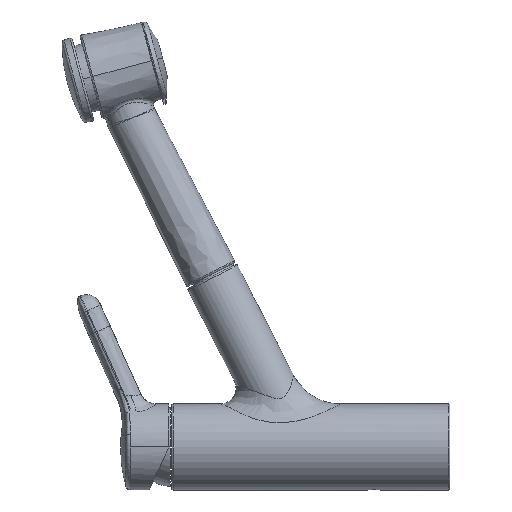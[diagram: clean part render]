
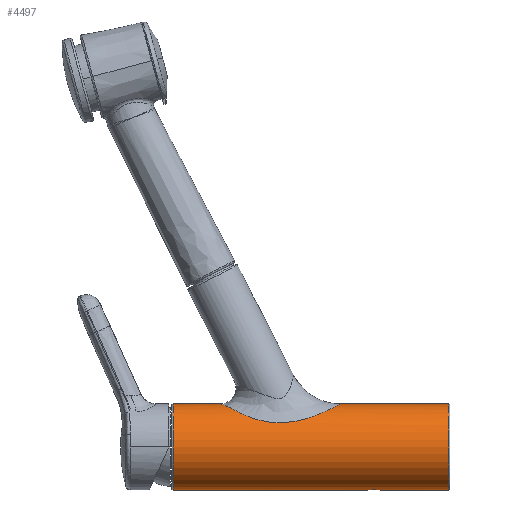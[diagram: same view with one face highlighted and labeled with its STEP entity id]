
A CAD part, left-side view. The second image highlights one B-rep face of the part: STEP entity #4497.
In plain terms, the highlighted cylindrical face has radius 24.5 mm (diameter 49 mm), a partial arc.
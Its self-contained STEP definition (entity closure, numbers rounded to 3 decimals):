
#1326=CARTESIAN_POINT('',(0.,131.351,
24.5));
#1365=CARTESIAN_POINT('',(0.,62.923,
24.5));
#1406=CARTESIAN_POINT('',(0.,1.3,0.));
#1407=DIRECTION('',(0.,1.,0.));
#1408=DIRECTION('',(0.,0.,-1.));
#1409=AXIS2_PLACEMENT_3D('',#1406,#1407,#1408);
#1411=DIRECTION('',(0.,-1.,0.));
#1412=VECTOR('',#1411,38.8);
#1413=CARTESIAN_POINT('',(0.,40.1,-24.5));
#1414=LINE('',#1413,#1412);
#1415=CARTESIAN_POINT('',(0.,47.6,-24.5));
#1416=CARTESIAN_POINT('',(-0.197,47.6,-24.5));
#1417=CARTESIAN_POINT('',(-0.586,47.569,
-24.495));
#1418=CARTESIAN_POINT('',(-1.159,47.433,
-24.475));
#1419=CARTESIAN_POINT('',(-1.706,47.207,
-24.442));
#1420=CARTESIAN_POINT('',(-2.211,46.898,
-24.402));
#1421=CARTESIAN_POINT('',(-2.663,46.513,
-24.356));
#1422=CARTESIAN_POINT('',(-3.048,46.061,
-24.31));
#1423=CARTESIAN_POINT('',(-3.357,45.556,
-24.269));
#1424=CARTESIAN_POINT('',(-3.583,45.009,
-24.237));
#1425=CARTESIAN_POINT('',(-3.719,44.437,
-24.216));
#1426=CARTESIAN_POINT('',(-3.765,43.85,
-24.209));
#1427=CARTESIAN_POINT('',(-3.719,43.263,
-24.216));
#1428=CARTESIAN_POINT('',(-3.583,42.691,
-24.237));
#1429=CARTESIAN_POINT('',(-3.357,42.144,
-24.269));
#1430=CARTESIAN_POINT('',(-3.048,41.639,
-24.31));
#1431=CARTESIAN_POINT('',(-2.663,41.187,
-24.356));
#1432=CARTESIAN_POINT('',(-2.211,40.802,
-24.402));
#1433=CARTESIAN_POINT('',(-1.706,40.493,
-24.442));
#1434=CARTESIAN_POINT('',(-1.159,40.267,
-24.475));
#1435=CARTESIAN_POINT('',(-0.586,40.131,
-24.495));
#1436=CARTESIAN_POINT('',(-0.197,40.1,-24.5));
#1437=CARTESIAN_POINT('',(0.,40.1,-24.5));
#1439=DIRECTION('',(0.,-1.,0.));
#1440=VECTOR('',#1439,110.6);
#1441=CARTESIAN_POINT('',(0.,158.2,-24.5));
#1442=LINE('',#1441,#1440);
#1443=CARTESIAN_POINT('',(0.,158.2,0.));
#1444=DIRECTION('',(0.,-1.,0.));
#1445=DIRECTION('',(0.,0.,1.));
#1446=AXIS2_PLACEMENT_3D('',#1443,#1444,#1445);
#1448=DIRECTION('',(0.,1.,0.));
#1449=VECTOR('',#1448,26.849);
#1450=CARTESIAN_POINT('',(0.,131.351,
24.5));
#1451=LINE('',#1450,#1449);
#1452=CARTESIAN_POINT('',(0.,62.923,
24.5));
#1453=CARTESIAN_POINT('',(-0.466,62.923,24.5));
#1454=CARTESIAN_POINT('',(-1.402,62.972,24.473));
#1455=CARTESIAN_POINT('',(-2.813,63.194,24.352));
#1456=CARTESIAN_POINT('',(-4.243,63.576,24.145));
#1457=CARTESIAN_POINT('',(-5.696,64.132,23.845));
#1458=CARTESIAN_POINT('',(-7.178,64.885,23.442));
#1459=CARTESIAN_POINT('',(-8.686,65.863,22.928));
#1460=CARTESIAN_POINT('',(-10.215,67.1,22.29));
#1461=CARTESIAN_POINT('',(-11.748,68.633,21.523));
#1462=CARTESIAN_POINT('',(-13.262,70.499,20.625));
#1463=CARTESIAN_POINT('',(-14.722,72.73,19.611));
#1464=CARTESIAN_POINT('',(-16.081,75.34,18.51));
#1465=CARTESIAN_POINT('',(-17.289,78.309,17.383));
#1466=CARTESIAN_POINT('',(-18.301,81.582,16.307));
#1467=CARTESIAN_POINT('',(-19.09,85.058,15.369));
#1468=CARTESIAN_POINT('',(-19.661,88.672,14.625));
#1469=CARTESIAN_POINT('',(-20.026,92.367,14.117));
#1470=CARTESIAN_POINT('',(-20.198,96.083,13.867));
#1471=CARTESIAN_POINT('',(-20.187,99.687,13.884));
#1472=CARTESIAN_POINT('',(-20.004,103.119,14.148));
#1473=CARTESIAN_POINT('',(-19.652,106.391,14.636));
#1474=CARTESIAN_POINT('',(-19.137,109.42,15.307));
#1475=CARTESIAN_POINT('',(-18.457,112.22,16.125));
#1476=CARTESIAN_POINT('',(-17.6,114.826,17.063));
#1477=CARTESIAN_POINT('',(-16.531,117.295,18.105));
#1478=CARTESIAN_POINT('',(-15.229,119.661,19.224));
#1479=CARTESIAN_POINT('',(-13.567,122.051,20.437));
#1480=CARTESIAN_POINT('',(-11.826,124.124,21.486));
#1481=CARTESIAN_POINT('',(-10.185,125.815,22.306));
#1482=CARTESIAN_POINT('',(-8.632,127.255,22.948));
#1483=CARTESIAN_POINT('',(-7.174,128.459,23.442));
#1484=CARTESIAN_POINT('',(-5.806,129.441,23.815));
#1485=CARTESIAN_POINT('',(-4.523,130.201,24.09));
#1486=CARTESIAN_POINT('',(-3.337,130.739,24.281));
#1487=CARTESIAN_POINT('',(-2.24,131.086,24.406));
#1488=CARTESIAN_POINT('',(-1.134,131.297,24.482));
#1489=CARTESIAN_POINT('',(-0.38,131.348,
24.5));
#1490=CARTESIAN_POINT('',(0.,131.351,
24.5));
#1492=DIRECTION('',(0.,1.,0.));
#1493=VECTOR('',#1492,61.623);
#1494=CARTESIAN_POINT('',(0.,1.3,24.5));
#1495=LINE('',#1494,#1493);
#1653=VERTEX_POINT('',#1326);
#1654=VERTEX_POINT('',#1365);
#1657=CARTESIAN_POINT('',(0.,1.3,24.5));
#1658=CARTESIAN_POINT('',(0.,1.3,-24.5));
#1659=VERTEX_POINT('',#1657);
#1660=VERTEX_POINT('',#1658);
#1673=CARTESIAN_POINT('',(0.,158.2,24.5));
#1674=CARTESIAN_POINT('',(0.,158.2,-24.5));
#1675=VERTEX_POINT('',#1673);
#1676=VERTEX_POINT('',#1674);
#1689=CARTESIAN_POINT('',(0.,47.6,-24.5));
#1690=VERTEX_POINT('',#1689);
#1691=CARTESIAN_POINT('',(0.,40.1,-24.5));
#1692=VERTEX_POINT('',#1691);
#4480=CARTESIAN_POINT('',(0.,-11.433,0.));
#4481=DIRECTION('',(0.,1.,0.));
#4482=DIRECTION('',(0.,0.,1.));
#4483=AXIS2_PLACEMENT_3D('',#4480,#4481,#4482);
#4484=CYLINDRICAL_SURFACE('',#4483,24.5);
#4485=ORIENTED_EDGE('',*,*,#4471,.F.);
#4486=ORIENTED_EDGE('',*,*,#4446,.F.);
#4488=ORIENTED_EDGE('',*,*,#4487,.F.);
#4489=ORIENTED_EDGE('',*,*,#4442,.F.);
#4491=ORIENTED_EDGE('',*,*,#4490,.F.);
#4492=ORIENTED_EDGE('',*,*,#4438,.F.);
#4493=ORIENTED_EDGE('',*,*,#4100,.F.);
#4494=ORIENTED_EDGE('',*,*,#4435,.F.);
#4495=EDGE_LOOP('',(#4485,#4486,#4488,#4489,#4491,#4492,#4493,#4494));
#4496=FACE_OUTER_BOUND('',#4495,.F.);
#4497=ADVANCED_FACE('',(#4496),#4484,.T.);
#1410=CIRCLE('',#1409,24.5);
#1438=B_SPLINE_CURVE_WITH_KNOTS('',3,(#1415,#1416,#1417,#1418,#1419,#1420,#1421,
#1422,#1423,#1424,#1425,#1426,#1427,#1428,#1429,#1430,#1431,#1432,#1433,#1434,
#1435,#1436,#1437),.UNSPECIFIED.,.F.,.F.,(4,1,1,1,1,1,1,1,1,1,1,1,1,1,1,1,1,1,1,
1,4),(0.,0.05,0.1,0.15,0.2,0.25,0.3,0.35,0.4,0.45,0.5,
0.55,0.6,0.65,0.7,0.75,0.8,0.85,0.9,0.95,1.),.UNSPECIFIED.);
#1447=CIRCLE('',#1446,24.5);
#1491=B_SPLINE_CURVE_WITH_KNOTS('',3,(#1452,#1453,#1454,#1455,#1456,#1457,#1458,
#1459,#1460,#1461,#1462,#1463,#1464,#1465,#1466,#1467,#1468,#1469,#1470,#1471,
#1472,#1473,#1474,#1475,#1476,#1477,#1478,#1479,#1480,#1481,#1482,#1483,#1484,
#1485,#1486,#1487,#1488,#1489,#1490),.UNSPECIFIED.,.F.,.F.,(4,1,1,1,1,1,1,1,1,1,
1,1,1,1,1,1,1,1,1,1,1,1,1,1,1,1,1,1,1,1,1,1,1,1,1,1,4),(0.,0.028,
0.056,0.083,0.111,0.139,
0.167,0.194,0.222,0.25,0.278,
0.306,0.333,0.361,0.389,
0.417,0.444,0.472,0.5,0.528,
0.556,0.583,0.611,0.639,
0.667,0.694,0.722,0.75,0.778,
0.806,0.833,0.861,0.889,
0.917,0.944,0.972,1.),.UNSPECIFIED.);
#4100=EDGE_CURVE('',#1654,#1653,#1491,.T.);
#4435=EDGE_CURVE('',#1659,#1654,#1495,.T.);
#4438=EDGE_CURVE('',#1653,#1675,#1451,.T.);
#4442=EDGE_CURVE('',#1676,#1690,#1442,.T.);
#4446=EDGE_CURVE('',#1692,#1660,#1414,.T.);
#4471=EDGE_CURVE('',#1660,#1659,#1410,.T.);
#4487=EDGE_CURVE('',#1690,#1692,#1438,.T.);
#4490=EDGE_CURVE('',#1675,#1676,#1447,.T.);
